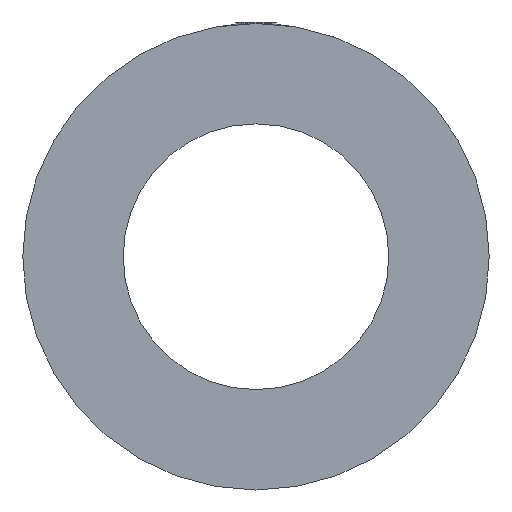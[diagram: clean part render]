
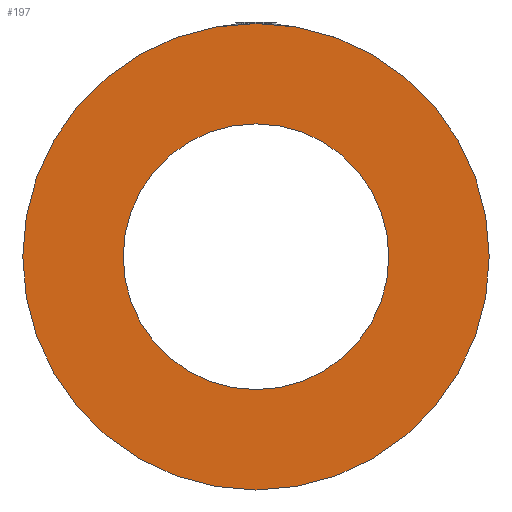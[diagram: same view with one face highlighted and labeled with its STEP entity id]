
A CAD part, left-side view. The second image highlights one B-rep face of the part: STEP entity #197.
In plain terms, the highlighted planar face has unit normal (-1, 0, 0).
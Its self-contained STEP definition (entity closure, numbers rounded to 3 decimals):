
#86 = VERTEX_POINT ( 'NONE', #3096 ) ;
#123 = EDGE_CURVE ( 'NONE', #1582, #827, #2377, .T. ) ;
#126 = EDGE_CURVE ( 'NONE', #86, #1589, #2648, .T. ) ;
#197 = ADVANCED_FACE ( 'NONE', ( #2902, #2274 ), #2375, .F. ) ;
#210 = CIRCLE ( 'NONE', #772, 45. ) ;
#222 = CIRCLE ( 'NONE', #801, 79. ) ;
#663 = CARTESIAN_POINT ( 'NONE',  ( 0., 0., -45. ) ) ;
#703 = ORIENTED_EDGE ( 'NONE', *, *, #126, .T. ) ;
#729 = EDGE_LOOP ( 'NONE', ( #2992, #3061 ) ) ;
#772 = AXIS2_PLACEMENT_3D ( 'NONE', #2903, #2895, #2890 ) ;
#801 = AXIS2_PLACEMENT_3D ( 'NONE', #3053, #3049, #3036 ) ;
#827 = VERTEX_POINT ( 'NONE', #663 ) ;
#937 = CARTESIAN_POINT ( 'NONE',  ( 0., 0., 45. ) ) ;
#973 = CARTESIAN_POINT ( 'NONE',  ( 0., 0., 79. ) ) ;
#1582 = VERTEX_POINT ( 'NONE', #937 ) ;
#1589 = VERTEX_POINT ( 'NONE', #973 ) ;
#1785 = EDGE_CURVE ( 'NONE', #1589, #86, #222, .T. ) ;
#1814 = EDGE_CURVE ( 'NONE', #827, #1582, #210, .T. ) ;
#1827 = EDGE_LOOP ( 'NONE', ( #3067, #703 ) ) ;
#2102 = DIRECTION ( 'NONE',  ( 0., 0., -1. ) ) ;
#2104 = DIRECTION ( 'NONE',  ( 1., 0., 0. ) ) ;
#2116 = CARTESIAN_POINT ( 'NONE',  ( 0., 45., 0. ) ) ;
#2179 = AXIS2_PLACEMENT_3D ( 'NONE', #2116, #2104, #2102 ) ;
#2274 = FACE_OUTER_BOUND ( 'NONE', #1827, .T. ) ;
#2375 = PLANE ( 'NONE',  #2179 ) ;
#2377 = CIRCLE ( 'NONE', #3027, 45. ) ;
#2427 = DIRECTION ( 'NONE',  ( 0., 0., 1. ) ) ;
#2482 = DIRECTION ( 'NONE',  ( -1., 0., 0. ) ) ;
#2648 = CIRCLE ( 'NONE', #3014, 79. ) ;
#2890 = DIRECTION ( 'NONE',  ( 0., 0., 1. ) ) ;
#2895 = DIRECTION ( 'NONE',  ( -1., 0., 0. ) ) ;
#2902 = FACE_BOUND ( 'NONE', #729, .T. ) ;
#2903 = CARTESIAN_POINT ( 'NONE',  ( 0., 0., 0. ) ) ;
#2916 = CARTESIAN_POINT ( 'NONE',  ( 0., 0., 0. ) ) ;
#2943 = DIRECTION ( 'NONE',  ( 0., 0., 1. ) ) ;
#2949 = CARTESIAN_POINT ( 'NONE',  ( 0., 0., 0. ) ) ;
#2992 = ORIENTED_EDGE ( 'NONE', *, *, #123, .F. ) ;
#3014 = AXIS2_PLACEMENT_3D ( 'NONE', #2916, #2482, #2427 ) ;
#3027 = AXIS2_PLACEMENT_3D ( 'NONE', #2949, #3079, #2943 ) ;
#3036 = DIRECTION ( 'NONE',  ( 0., 0., 1. ) ) ;
#3049 = DIRECTION ( 'NONE',  ( -1., 0., 0. ) ) ;
#3053 = CARTESIAN_POINT ( 'NONE',  ( 0., 0., 0. ) ) ;
#3061 = ORIENTED_EDGE ( 'NONE', *, *, #1814, .F. ) ;
#3067 = ORIENTED_EDGE ( 'NONE', *, *, #1785, .T. ) ;
#3079 = DIRECTION ( 'NONE',  ( -1., 0., 0. ) ) ;
#3096 = CARTESIAN_POINT ( 'NONE',  ( 0., 0., -79. ) ) ;
